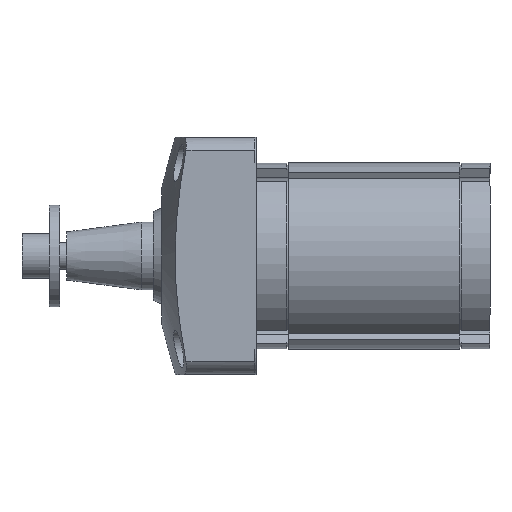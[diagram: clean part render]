
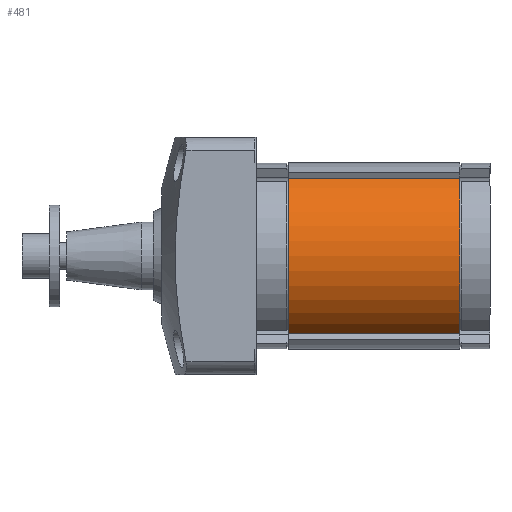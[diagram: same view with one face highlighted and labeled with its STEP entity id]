
A CAD part, left-side view. The second image highlights one B-rep face of the part: STEP entity #481.
In plain terms, the highlighted cylindrical face has radius 27.5 mm (diameter 55 mm), a partial arc.
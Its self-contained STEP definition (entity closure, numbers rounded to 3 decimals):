
#481 = ADVANCED_FACE( '', ( #831 ), #832, .T. );
#831 = FACE_OUTER_BOUND( '', #1402, .T. );
#832 = CYLINDRICAL_SURFACE( '', #1403, 27.5 );
#1402 = EDGE_LOOP( '', ( #2596, #2597, #2598, #2599 ) );
#1403 = AXIS2_PLACEMENT_3D( '', #2600, #2601, #2602 );
#2596 = ORIENTED_EDGE( '', *, *, #3929, .F. );
#2597 = ORIENTED_EDGE( '', *, *, #3884, .F. );
#2598 = ORIENTED_EDGE( '', *, *, #3928, .T. );
#2599 = ORIENTED_EDGE( '', *, *, #3802, .T. );
#2600 = CARTESIAN_POINT( '', ( 0., -60., 0. ) );
#2601 = DIRECTION( '', ( 0., -1., 0. ) );
#2602 = DIRECTION( '', ( 1., 0., 0. ) );
#3802 = EDGE_CURVE( '', #4525, #4523, #4526, .T. );
#3884 = EDGE_CURVE( '', #4670, #4672, #4673, .T. );
#3928 = EDGE_CURVE( '', #4670, #4525, #4736, .T. );
#3929 = EDGE_CURVE( '', #4672, #4523, #4737, .T. );
#4523 = VERTEX_POINT( '', #5700 );
#4525 = VERTEX_POINT( '', #5703 );
#4526 = CIRCLE( '', #5704, 27.5 );
#4670 = VERTEX_POINT( '', #5906 );
#4672 = VERTEX_POINT( '', #5909 );
#4673 = CIRCLE( '', #5910, 27.5 );
#4736 = LINE( '', #6005, #6006 );
#4737 = LINE( '', #6007, #6008 );
#5700 = CARTESIAN_POINT( '', ( -15.112, -9.5, -22.975 ) );
#5703 = CARTESIAN_POINT( '', ( -15.112, -9.5, 22.975 ) );
#5704 = AXIS2_PLACEMENT_3D( '', #7255, #7256, #7257 );
#5906 = CARTESIAN_POINT( '', ( -15.112, -60., 22.975 ) );
#5909 = CARTESIAN_POINT( '', ( -15.112, -60., -22.975 ) );
#5910 = AXIS2_PLACEMENT_3D( '', #7383, #7384, #7385 );
#6005 = CARTESIAN_POINT( '', ( -15.112, -102.238, 22.975 ) );
#6006 = VECTOR( '', #7451, 1000. );
#6007 = CARTESIAN_POINT( '', ( -15.112, -60., -22.975 ) );
#6008 = VECTOR( '', #7452, 1000. );
#7255 = CARTESIAN_POINT( '', ( 0., -9.5, 0. ) );
#7256 = DIRECTION( '', ( 0., -1., 0. ) );
#7257 = DIRECTION( '', ( 0., 0., -1. ) );
#7383 = CARTESIAN_POINT( '', ( 0., -60., 0. ) );
#7384 = DIRECTION( '', ( 0., -1., 0. ) );
#7385 = DIRECTION( '', ( 0., 0., -1. ) );
#7451 = DIRECTION( '', ( 0., 1., 0. ) );
#7452 = DIRECTION( '', ( 0., 1., 0. ) );
